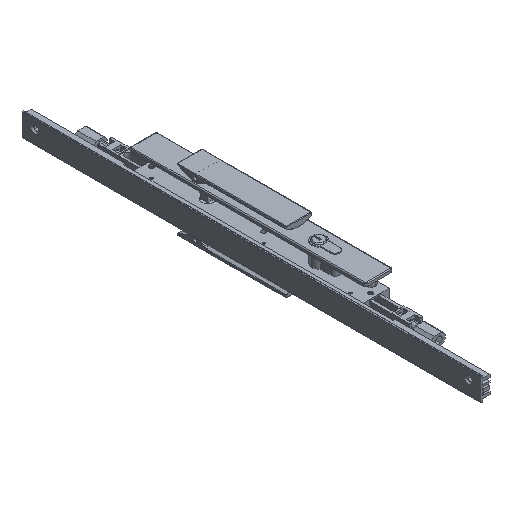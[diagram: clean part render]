
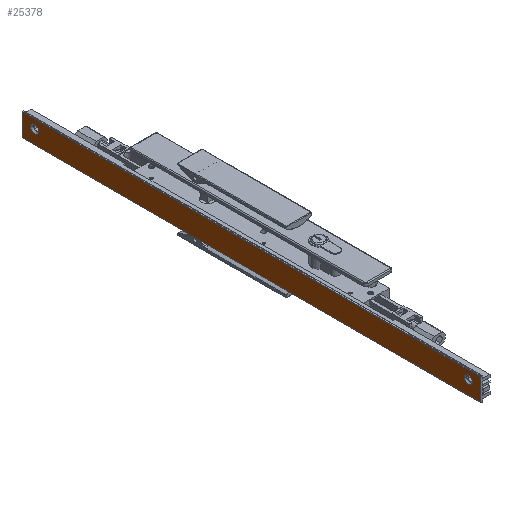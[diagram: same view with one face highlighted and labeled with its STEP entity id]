
A CAD part, isometric view. The second image highlights one B-rep face of the part: STEP entity #25378.
In plain terms, the highlighted planar face has unit normal (-1, 0, 0) as drawn and (0, 1, 0) by its records, which use the part's own axes.
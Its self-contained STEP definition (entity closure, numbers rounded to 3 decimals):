
#112 = ORIENTED_EDGE ( 'NONE', *, *, #20507, .F. ) ;
#883 = EDGE_LOOP ( 'NONE', ( #22870, #9798, #112, #31666 ) ) ;
#975 = EDGE_CURVE ( 'NONE', #10312, #1711, #14117, .T. ) ;
#1002 = CARTESIAN_POINT ( 'NONE',  ( 11.8, 12.4, 533.889 ) ) ;
#1711 = VERTEX_POINT ( 'NONE', #7807 ) ;
#1738 = CARTESIAN_POINT ( 'NONE',  ( 11.8, 12.4, 529. ) ) ;
#1769 = CARTESIAN_POINT ( 'NONE',  ( 20.8, 12.4, 544. ) ) ;
#1833 = FACE_BOUND ( 'NONE', #32051, .T. ) ;
#2010 = CARTESIAN_POINT ( 'NONE',  ( 20.8, 12.4, 544. ) ) ;
#4249 = CIRCLE ( 'NONE', #21595, 4.889 ) ;
#4677 = DIRECTION ( 'NONE',  ( 0., 0., 1. ) ) ;
#4678 = EDGE_CURVE ( 'NONE', #12195, #11283, #4249, .T. ) ;
#4868 = FACE_OUTER_BOUND ( 'NONE', #883, .T. ) ;
#5608 = CARTESIAN_POINT ( 'NONE',  ( 11.8, 12.4, 15. ) ) ;
#7759 = CARTESIAN_POINT ( 'NONE',  ( 22., 12.4, 0. ) ) ;
#7807 = CARTESIAN_POINT ( 'NONE',  ( 22., 12.4, 544. ) ) ;
#9102 = LINE ( 'NONE', #19447, #14773 ) ;
#9701 = CARTESIAN_POINT ( 'NONE',  ( 11.8, 12.4, 10.111 ) ) ;
#9769 = DIRECTION ( 'NONE',  ( 0., 1., 0. ) ) ;
#9772 = AXIS2_PLACEMENT_3D ( 'NONE', #2010, #15243, #25584 ) ;
#9798 = ORIENTED_EDGE ( 'NONE', *, *, #11215, .T. ) ;
#10312 = VERTEX_POINT ( 'NONE', #7759 ) ;
#10378 = DIRECTION ( 'NONE',  ( 0., 1., 0. ) ) ;
#11083 = ORIENTED_EDGE ( 'NONE', *, *, #4678, .F. ) ;
#11215 = EDGE_CURVE ( 'NONE', #18078, #31163, #9102, .T. ) ;
#11283 = VERTEX_POINT ( 'NONE', #15229 ) ;
#11488 = DIRECTION ( 'NONE',  ( 0., 0., 1. ) ) ;
#11935 = EDGE_CURVE ( 'NONE', #18502, #12480, #29958, .T. ) ;
#12120 = CARTESIAN_POINT ( 'NONE',  ( -4.4, 12.4, 0. ) ) ;
#12141 = CARTESIAN_POINT ( 'NONE',  ( -4.4, 12.4, 544. ) ) ;
#12195 = VERTEX_POINT ( 'NONE', #1002 ) ;
#12276 = LINE ( 'NONE', #1769, #30653 ) ;
#12480 = VERTEX_POINT ( 'NONE', #33521 ) ;
#12520 = AXIS2_PLACEMENT_3D ( 'NONE', #14351, #29962, #11488 ) ;
#14117 = LINE ( 'NONE', #18885, #33414 ) ;
#14351 = CARTESIAN_POINT ( 'NONE',  ( 11.8, 12.4, 529. ) ) ;
#14680 = ORIENTED_EDGE ( 'NONE', *, *, #18987, .F. ) ;
#14682 = CARTESIAN_POINT ( 'NONE',  ( 20.8, 12.4, 0. ) ) ;
#14773 = VECTOR ( 'NONE', #4677, 1000. ) ;
#15229 = CARTESIAN_POINT ( 'NONE',  ( 11.8, 12.4, 524.111 ) ) ;
#15243 = DIRECTION ( 'NONE',  ( 0., -1., 0. ) ) ;
#16362 = AXIS2_PLACEMENT_3D ( 'NONE', #5608, #10378, #31559 ) ;
#16891 = CARTESIAN_POINT ( 'NONE',  ( 11.8, 12.4, 15. ) ) ;
#16964 = EDGE_LOOP ( 'NONE', ( #14680, #23079 ) ) ;
#17363 = CIRCLE ( 'NONE', #12520, 4.889 ) ;
#17604 = PLANE ( 'NONE',  #9772 ) ;
#18078 = VERTEX_POINT ( 'NONE', #12120 ) ;
#18502 = VERTEX_POINT ( 'NONE', #9701 ) ;
#18885 = CARTESIAN_POINT ( 'NONE',  ( 22., 12.4, 0. ) ) ;
#18987 = EDGE_CURVE ( 'NONE', #12480, #18502, #24030, .T. ) ;
#19447 = CARTESIAN_POINT ( 'NONE',  ( -4.4, 12.4, 0. ) ) ;
#19763 = LINE ( 'NONE', #14682, #31411 ) ;
#20118 = DIRECTION ( 'NONE',  ( 0., 0., 1. ) ) ;
#20507 = EDGE_CURVE ( 'NONE', #1711, #31163, #12276, .T. ) ;
#21595 = AXIS2_PLACEMENT_3D ( 'NONE', #1738, #25124, #22594 ) ;
#22522 = FACE_BOUND ( 'NONE', #16964, .T. ) ;
#22594 = DIRECTION ( 'NONE',  ( 0., 0., 1. ) ) ;
#22870 = ORIENTED_EDGE ( 'NONE', *, *, #30238, .T. ) ;
#23079 = ORIENTED_EDGE ( 'NONE', *, *, #11935, .F. ) ;
#24030 = CIRCLE ( 'NONE', #28397, 4.89 ) ;
#24943 = ORIENTED_EDGE ( 'NONE', *, *, #26827, .F. ) ;
#25124 = DIRECTION ( 'NONE',  ( 0., 1., 0. ) ) ;
#25378 = ADVANCED_FACE ( 'NONE', ( #22522, #1833, #4868 ), #17604, .F. ) ;
#25584 = DIRECTION ( 'NONE',  ( 1., 0., 0. ) ) ;
#26827 = EDGE_CURVE ( 'NONE', #11283, #12195, #17363, .T. ) ;
#26882 = DIRECTION ( 'NONE',  ( -1., 0., 0. ) ) ;
#28397 = AXIS2_PLACEMENT_3D ( 'NONE', #16891, #9769, #20118 ) ;
#29221 = DIRECTION ( 'NONE',  ( 0., 0., 1. ) ) ;
#29958 = CIRCLE ( 'NONE', #16362, 4.89 ) ;
#29962 = DIRECTION ( 'NONE',  ( 0., 1., 0. ) ) ;
#30238 = EDGE_CURVE ( 'NONE', #10312, #18078, #19763, .T. ) ;
#30653 = VECTOR ( 'NONE', #32807, 1000. ) ;
#31163 = VERTEX_POINT ( 'NONE', #12141 ) ;
#31411 = VECTOR ( 'NONE', #26882, 1000. ) ;
#31559 = DIRECTION ( 'NONE',  ( 0., 0., 1. ) ) ;
#31666 = ORIENTED_EDGE ( 'NONE', *, *, #975, .F. ) ;
#32051 = EDGE_LOOP ( 'NONE', ( #11083, #24943 ) ) ;
#32807 = DIRECTION ( 'NONE',  ( -1., 0., 0. ) ) ;
#33414 = VECTOR ( 'NONE', #29221, 1000. ) ;
#33521 = CARTESIAN_POINT ( 'NONE',  ( 11.8, 12.4, 19.89 ) ) ;
